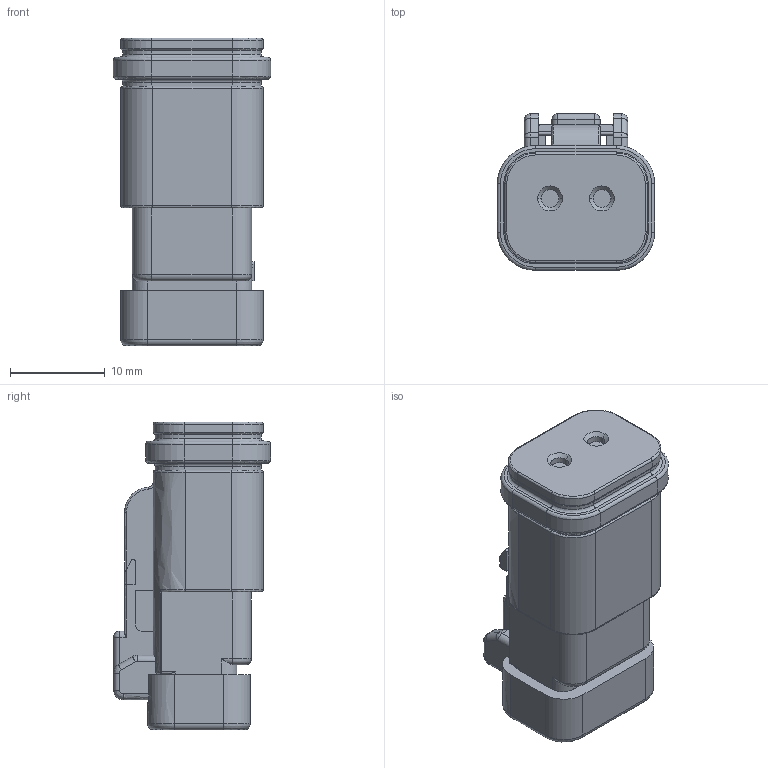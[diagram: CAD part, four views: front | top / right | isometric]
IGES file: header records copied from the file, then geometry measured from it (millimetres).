
Start section:  PTC IGES file: c-dt06-2s-c017-99-3d.igs
Global section: file name: c-dt06-2s-c017-99-3d.igs; native system: Pro/ENGINEER by Parametric Technology Corporation; preprocessor: 2011490; author: workeradm; organization: Unknown; units: millimetre
Bounding box: 16.59 x 16.56 x 32.46 mm (x, y, z)
Surface area: 2494.7 mm2 (no closed solid volume)
Topology: 0 solids, 0 shells, 320 faces, 1550 edges, 1550 vertices
Faces by surface type: revolution 213, bspline 107
